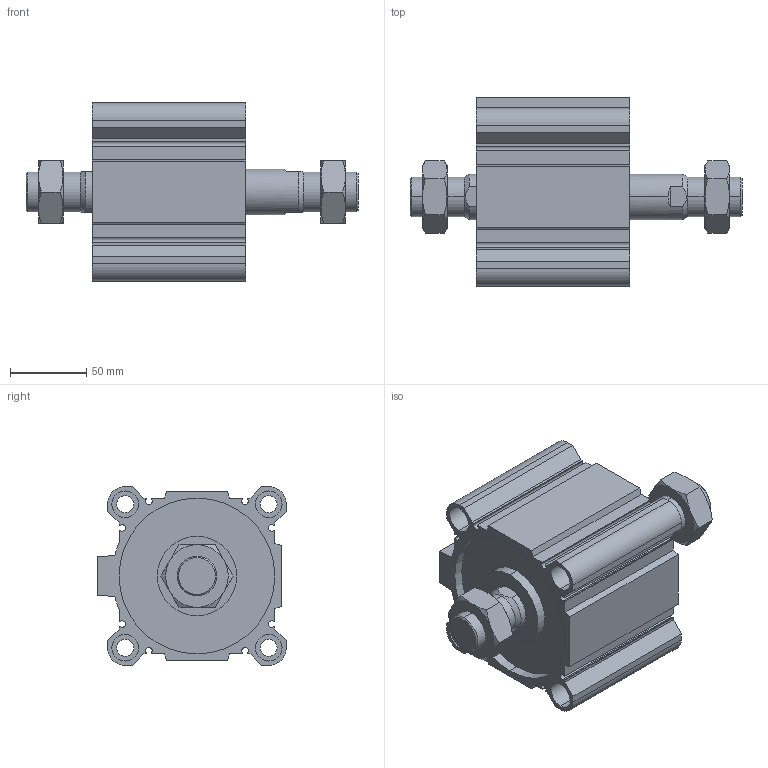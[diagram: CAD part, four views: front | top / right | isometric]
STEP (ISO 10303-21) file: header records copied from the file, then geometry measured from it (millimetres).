
FILE_DESCRIPTION (( 'STEP AP203' ), '1' );
FILE_NAME ('CCMB100-30M-P.STEP', '2020-08-10T11:58:59', ( '' ), ( '' ), 'SwSTEP 2.0', 'SolidWorks 2019', '' );
FILE_SCHEMA (( 'CONFIG_CONTROL_DESIGN' ));
Length unit declared in the file: millimetre
Products named in the file (1): CCMB100-30M-P
Bounding box: 217.5 x 123.5 x 117 mm (x, y, z)
Volume: 965506.9 mm3; surface area: 201729.2 mm2
Topology: 4 solids, 4 shells, 230 faces, 568 edges, 364 vertices
Faces by surface type: plane 106, cylinder 80, cone 44
Entity records: 7879 total; most frequent: CARTESIAN_POINT 2279, DIRECTION 1166, ORIENTED_EDGE 1136, EDGE_CURVE 568, AXIS2_PLACEMENT_3D 431, VERTEX_POINT 364, LINE 304, VECTOR 304
